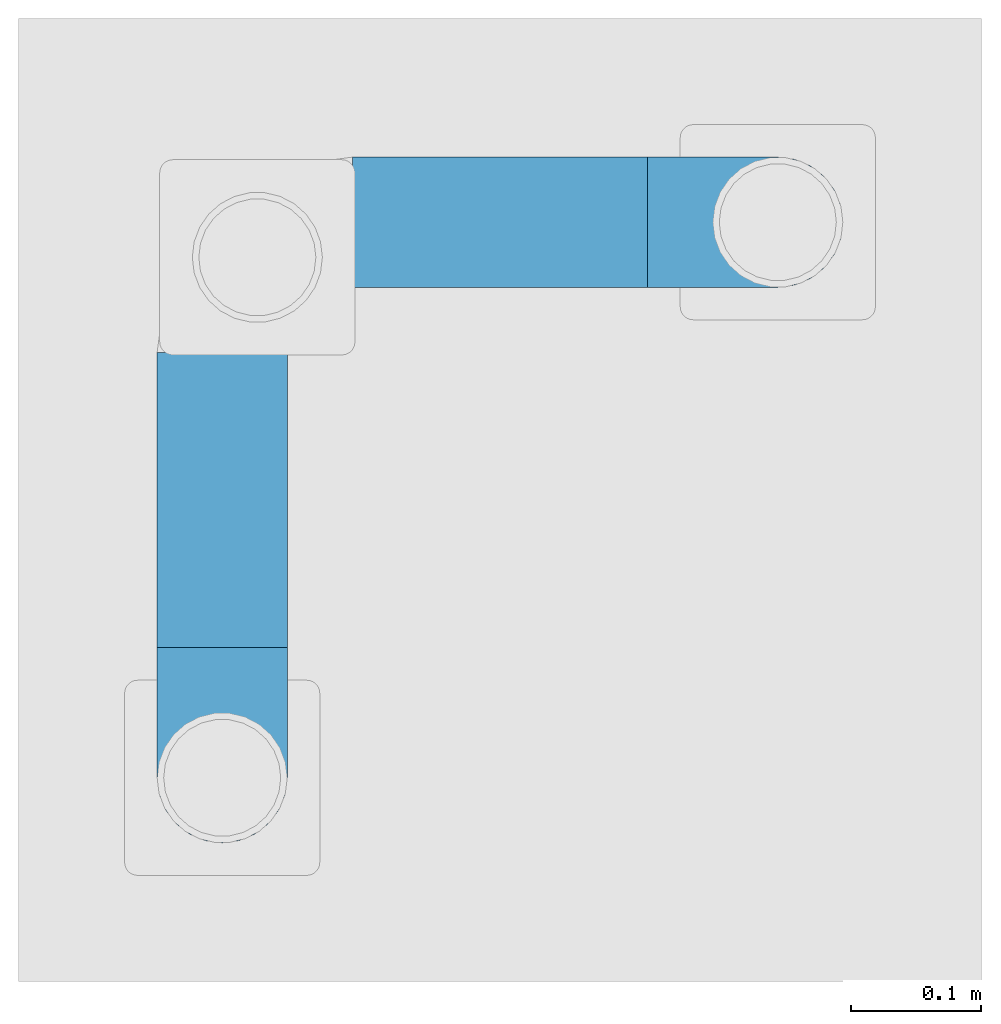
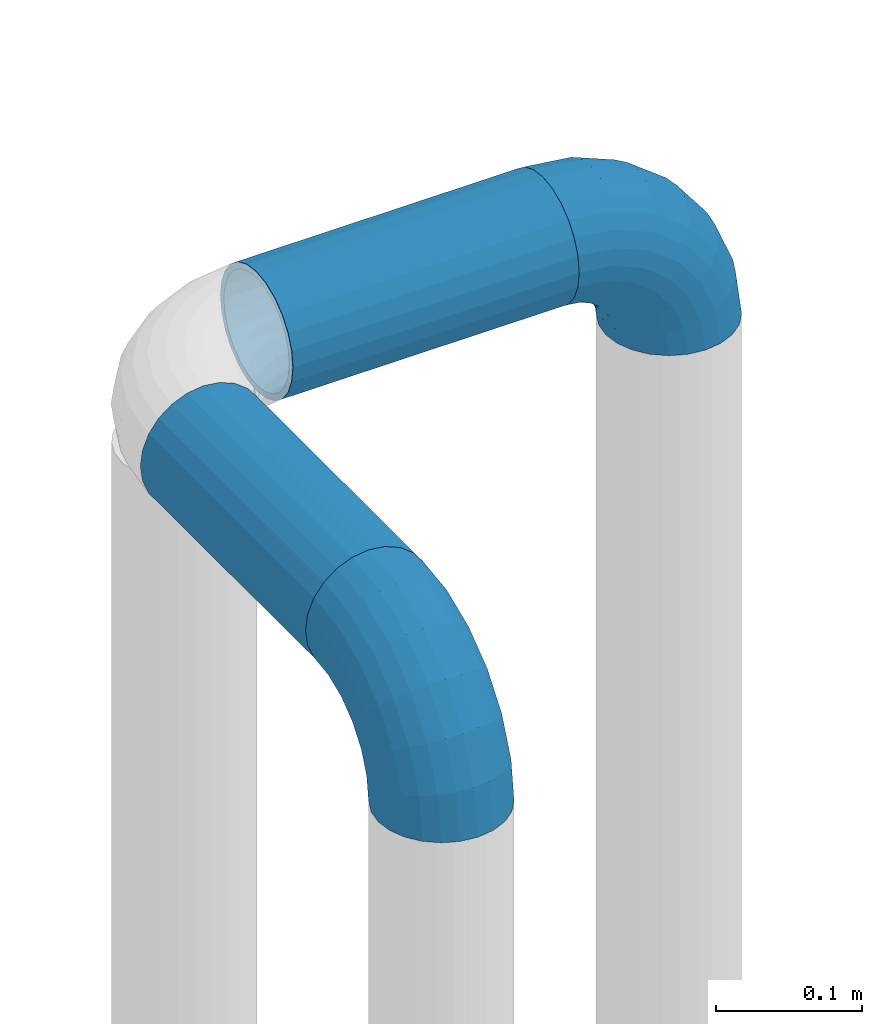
# One storey, part 69 of 418: 4 discrete accessories.
"""IFC2X3 building model written with IfcOpenShell, lengths in millimetres."""

from ifc_helpers import new_model, entity, si_unit, converted_unit, derived_unit, money_unit, direction, frame, origin_with_axes, place, context, subcontext, project, spatial, faceted_brep, source, transform, mapped, type_object, element, save


model = new_model("IFC2X3")

# Units and contexts
model_context = context("Model", 3, precision=0.01, world=origin_with_axes(), true_north=direction((0.0, 1.0)))
body_context = subcontext(model_context, "Body", "Model", "MODEL_VIEW")
ifc_project = project(units=[si_unit("LENGTHUNIT", "METRE", prefix="MILLI"), si_unit("AREAUNIT", "SQUARE_METRE"), si_unit("VOLUMEUNIT", "CUBIC_METRE"), converted_unit("PLANEANGLEUNIT", "DEGREE", entity("IfcPlaneAngleMeasure", 0.0174532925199), si_unit("PLANEANGLEUNIT", "RADIAN"), dimensions=[0, 0, 0, 0, 0, 0, 0]), si_unit("SOLIDANGLEUNIT", "STERADIAN"), money_unit("EUR"), converted_unit("TIMEUNIT", "Year", entity("IfcTimeMeasure", 31556926.0), si_unit("TIMEUNIT", "SECOND"), dimensions=[0, 0, 1, 0, 0, 0, 0]), si_unit("MASSUNIT", "GRAM", prefix="KILO"), si_unit("THERMODYNAMICTEMPERATUREUNIT", "DEGREE_CELSIUS"), si_unit("LUMINOUSINTENSITYUNIT", "LUMEN"), si_unit("ENERGYUNIT", "JOULE", prefix="MEGA"), derived_unit("THERMALCONDUCTANCEUNIT", [(si_unit("POWERUNIT", "WATT"), 1), (si_unit("LENGTHUNIT", "METRE"), -1), (si_unit("THERMODYNAMICTEMPERATUREUNIT", "KELVIN"), -1)]), derived_unit("SPECIFICHEATCAPACITYUNIT", [(si_unit("ENERGYUNIT", "JOULE"), 1), (si_unit("MASSUNIT", "GRAM", prefix="KILO"), -1), (si_unit("THERMODYNAMICTEMPERATUREUNIT", "KELVIN"), -1)]), derived_unit("MASSDENSITYUNIT", [(si_unit("MASSUNIT", "GRAM", prefix="KILO"), 1), (si_unit("VOLUMEUNIT", "CUBIC_METRE"), -1)])], contexts=[model_context])

# Site, building, storey
site_placement = place(None, origin_with_axes())
site = spatial("IfcSite", under=ifc_project, at=site_placement, Name="Paldiski mnt 245/1, Tallinn, Harjumaa", CompositionType="COMPLEX")
building_placement = place(site_placement, origin_with_axes())
building = spatial("IfcBuilding", under=site, at=building_placement, Name="RKAS Hoone üldnimetus (kasutust iseloomustav) -> IFC Project Manager -> SOLIBRI", CompositionType="ELEMENT")
storey_placement = place(building_placement, origin_with_axes())
storey = spatial("IfcBuildingStorey", under=building, at=storey_placement, Name="Esimene korrus", CompositionType="ELEMENT", Elevation=0.0)

# Discrete accessories
discrete_accessory_type_1 = type_object("IfcDiscreteAccessoryType", Name="Elbow Tube 23")
shared_shape_1 = source(origin_with_axes(), body_context, "Body", "Brep", [
    faceted_brep([(-48.2962913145, 12.9409522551, 0.0), (-43.3012701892, 25.0, 0.0), (-35.3553390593, 35.3553390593, 0.0), (-25.0, 43.3012701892, 0.0), (-12.9409522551, 48.2962913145, 0.0), (0.0, 50.0, 0.0), (12.9409522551, 48.2962913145, 0.0), (25.0, 43.3012701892, 0.0), (35.3553390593, 35.3553390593, 0.0), (43.3012701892, 25.0, 0.0), (48.2962913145, 12.9409522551, 0.0), (50.0, 0.0, 0.0), (48.2962913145, -12.9409522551, 0.0), (43.3012701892, -25.0, 0.0), (35.3553390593, -35.3553390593, 0.0), (25.0, -43.3012701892, 0.0), (12.9409522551, -48.2962913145, 0.0), (0.0, -50.0, 0.0), (-12.9409522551, -48.2962913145, 0.0), (-25.0, -43.3012701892, 0.0), (-35.3553390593, -35.3553390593, 0.0), (-43.3012701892, -25.0, 0.0), (-48.2962913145, -12.9409522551, 0.0), (-50.0, 0.0, 0.0), (-39.513173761, -22.5, 0.0), (-32.4253506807, -31.8198051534, 0.0), (-23.1883198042, -38.9711431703, 0.0), (-12.4315695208, -43.466662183, 0.0), (-0.888154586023, -45.0, 0.0), (10.6552603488, -43.466662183, 0.0), (21.4120106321, -38.9711431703, 0.0), (30.6490415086, -31.8198051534, 0.0), (37.736864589, -22.5, 0.0), (42.1924564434, -11.6468570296, 0.0), (43.7121758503, 0.0, 0.0), (42.1924564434, 11.6468570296, 0.0), (37.736864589, 22.5, 0.0), (30.6490415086, 31.8198051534, 0.0), (21.4120106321, 38.9711431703, 0.0), (10.6552603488, 43.466662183, 0.0), (-0.888154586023, 45.0, 0.0), (-12.4315695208, 43.466662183, 0.0), (-23.1883198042, 38.9711431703, 0.0), (-32.4253506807, 31.8198051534, 0.0), (-39.513173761, 22.5, 0.0), (-43.9687656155, 11.6468570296, 0.0), (-45.4884850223, 0.0, 0.0), (-43.9687656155, -11.6468570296, 0.0), (-45.233232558, 25.0, 14.6747111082), (-50.0580524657, 12.9409522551, 13.3819045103), (-37.5580524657, 35.3553390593, 16.7312694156), (-27.5555630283, 43.3012701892, 19.4114283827), (-15.9074173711, 48.2962913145, 22.5325396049), (-3.40741737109, 50.0, 25.8819045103), (9.09258262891, 48.2962913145, 29.2312694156), (20.7407282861, 43.3012701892, 32.3523806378), (30.7432177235, 35.3553390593, 35.0325396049), (38.4183978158, 25.0, 37.0890979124), (43.2432177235, 12.9409522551, 38.3819045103), (44.8888739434, 0.0, 38.8228567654), (43.2432177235, -12.9409522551, 38.3819045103), (38.4183978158, -25.0, 37.0890979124), (30.7432177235, -35.3553390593, 35.0325396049), (20.7407282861, -43.3012701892, 32.3523806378), (9.09258262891, -48.2962913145, 29.2312694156), (-3.40741737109, -50.0, 25.8819045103), (-15.9074173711, -48.2962913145, 22.5325396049), (-27.5555630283, -43.3012701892, 19.4114283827), (-37.5580524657, -35.3553390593, 16.7312694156), (-45.233232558, -25.0, 14.6747111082), (-50.0580524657, -12.9409522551, 13.3819045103), (-51.7037086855, 0.0, 12.9409522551), (-40.2319614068, -22.5, 12.3411072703), (-33.2283655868, -31.8198051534, 13.787233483), (-24.1011018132, -38.9711431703, 15.6718618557), (-13.4721780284, -43.466662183, 17.8665580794), (-2.06593782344, -45.0, 20.2217572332), (9.34030238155, -43.466662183, 22.576956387), (19.9692261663, -38.9711431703, 24.7716526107), (29.0964899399, -31.8198051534, 26.6562809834), (36.1000857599, -22.5, 28.1024071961), (40.5027301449, -11.6468570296, 29.0114801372), (42.004390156, 0.0, 29.3215479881), (40.5027301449, 11.6468570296, 29.0114801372), (36.1000857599, 22.5, 28.1024071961), (29.0964899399, 31.8198051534, 26.6562809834), (19.9692261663, 38.9711431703, 24.7716526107), (9.34030238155, 43.466662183, 22.576956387), (-2.06593782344, 45.0, 20.2217572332), (-13.4721780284, 43.466662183, 17.8665580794), (-24.1011018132, 38.9711431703, 15.6718618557), (-33.2283655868, 31.8198051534, 13.787233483), (-40.2319614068, 22.5, 12.3411072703), (-44.6346057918, 11.6468570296, 11.4320343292), (-46.1362658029, 0.0, 11.1219664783), (-44.6346057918, -11.6468570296, 11.4320343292), (-50.8974596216, 25.0, 28.3493649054), (-55.2232748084, 12.9409522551, 25.8518543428), (-44.0160814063, 35.3553390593, 32.3223304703), (-35.0480947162, 43.3012701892, 37.5), (-24.6046530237, 48.2962913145, 43.5295238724), (-13.3974596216, 50.0, 50.0), (-2.19026621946, 48.2962913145, 56.4704761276), (8.25317547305, 43.3012701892, 62.5), (17.2211621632, 35.3553390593, 67.6776695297), (24.1025403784, 25.0, 71.6506350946), (28.4283555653, 12.9409522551, 74.1481456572), (29.9038105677, 0.0, 75.0), (28.4283555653, -12.9409522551, 74.1481456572), (24.1025403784, -25.0, 71.6506350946), (17.2211621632, -35.3553390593, 67.6776695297), (8.25317547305, -43.3012701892, 62.5), (-2.19026621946, -48.2962913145, 56.4704761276), (-13.3974596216, -50.0, 50.0), (-24.6046530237, -48.2962913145, 43.5295238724), (-35.0480947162, -43.3012701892, 37.5), (-44.0160814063, -35.3553390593, 32.3223304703), (-50.8974596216, -25.0, 28.3493649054), (-55.2232748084, -12.9409522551, 25.8518543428), (-56.6987298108, 0.0, 25.0), (-39.9876976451, -31.8198051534, 32.3583456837), (-46.2823153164, -22.5, 28.9643180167), (-31.7843921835, -38.9711431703, 36.7815286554), (-22.2314406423, -43.466662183, 41.9324343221), (-11.979860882, -45.0, 47.4600369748), (-1.72828112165, -43.466662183, 52.9876396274), (7.82467041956, -38.9711431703, 58.1385452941), (16.0279758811, -31.8198051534, 62.5617282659), (22.3225935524, -22.5, 65.9557559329), (26.2795556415, -11.6468570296, 68.0893309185), (27.6292017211, 0.0, 68.8170536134), (26.2795556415, 11.6468570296, 68.0893309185), (22.3225935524, 22.5, 65.9557559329), (16.0279758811, 31.8198051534, 62.5617282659), (7.82467041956, 38.9711431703, 58.1385452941), (-1.72828112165, 43.466662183, 52.9876396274), (-11.979860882, 45.0, 47.4600369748), (-22.2314406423, 43.466662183, 41.9324343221), (-31.7843921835, 38.9711431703, 36.7815286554), (-39.9876976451, 31.8198051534, 32.3583456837), (-46.2823153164, 22.5, 28.9643180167), (-50.2392774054, 11.6468570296, 26.830743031), (-51.5889234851, 0.0, 26.1030203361), (-50.2392774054, -11.6468570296, 26.830743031), (-59.9079436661, 25.0, 40.0920563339), (-63.439956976, 12.9409522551, 36.560043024), (-54.2893218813, 35.3553390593, 45.7106781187), (-46.966991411, 43.3012701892, 53.033008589), (-38.439956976, 48.2962913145, 61.560043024), (-29.2893218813, 50.0, 70.7106781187), (-20.1386867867, 48.2962913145, 79.8613132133), (-11.6116523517, 43.3012701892, 88.3883476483), (-4.28932188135, 35.3553390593, 95.7106781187), (1.32929990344, 25.0, 101.329299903), (4.86131321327, 12.9409522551, 104.861313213), (6.06601717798, 0.0, 106.066017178), (4.86131321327, -12.9409522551, 104.861313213), (1.32929990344, -25.0, 101.329299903), (-4.28932188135, -35.3553390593, 95.7106781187), (-11.6116523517, -43.3012701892, 88.3883476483), (-20.1386867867, -48.2962913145, 79.8613132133), (-29.2893218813, -50.0, 70.7106781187), (-38.439956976, -48.2962913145, 61.560043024), (-46.966991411, -43.3012701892, 53.033008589), (-54.2893218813, -35.3553390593, 45.7106781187), (-59.9079436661, -25.0, 40.0920563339), (-63.439956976, -12.9409522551, 36.560043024), (-64.6446609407, 0.0, 35.3553390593), (-51.7893218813, -31.8198051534, 48.2106781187), (-56.8460814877, -22.5, 43.1539185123), (-45.199224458, -38.9711431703, 54.800775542), (-37.5248934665, -43.466662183, 62.4751065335), (-29.2893218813, -45.0, 70.7106781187), (-21.0537502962, -43.466662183, 78.9462497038), (-13.3794193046, -38.9711431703, 86.6205806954), (-6.78932188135, -31.8198051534, 93.2106781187), (-1.73256227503, -22.5, 98.267437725), (1.4462497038, -11.6468570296, 101.446249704), (2.53048327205, 0.0, 102.530483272), (1.4462497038, 11.6468570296, 101.446249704), (-1.73256227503, 22.5, 98.267437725), (-6.78932188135, 31.8198051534, 93.2106781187), (-13.3794193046, 38.9711431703, 86.6205806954), (-21.0537502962, 43.466662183, 78.9462497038), (-29.2893218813, 45.0, 70.7106781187), (-37.5248934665, 43.466662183, 62.4751065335), (-45.199224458, 38.9711431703, 54.800775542), (-51.7893218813, 31.8198051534, 48.2106781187), (-56.8460814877, 22.5, 43.1539185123), (-60.0248934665, 11.6468570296, 39.9751065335), (-61.1091270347, 0.0, 38.8908729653), (-60.0248934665, -11.6468570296, 39.9751065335), (-71.6506350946, 25.0, 49.1025403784), (-74.1481456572, 12.9409522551, 44.7767251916), (-67.6776695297, 35.3553390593, 55.9839185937), (-62.5, 43.3012701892, 64.9519052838), (-56.4704761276, 48.2962913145, 75.3953469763), (-50.0, 50.0, 86.6025403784), (-43.5295238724, 48.2962913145, 97.8097337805), (-37.5, 43.3012701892, 108.253175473), (-32.3223304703, 35.3553390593, 117.221162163), (-28.3493649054, 25.0, 124.102540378), (-25.8518543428, 12.9409522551, 128.428355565), (-25.0, 0.0, 129.903810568), (-25.8518543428, -12.9409522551, 128.428355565), (-28.3493649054, -25.0, 124.102540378), (-32.3223304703, -35.3553390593, 117.221162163), (-37.5, -43.3012701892, 108.253175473), (-43.5295238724, -48.2962913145, 97.8097337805), (-50.0, -50.0, 86.6025403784), (-56.4704761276, -48.2962913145, 75.3953469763), (-62.5, -43.3012701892, 64.9519052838), (-67.6776695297, -35.3553390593, 55.9839185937), (-71.6506350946, -25.0, 49.1025403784), (-74.1481456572, -12.9409522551, 44.7767251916), (-75.0, 0.0, 43.3012701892), (-67.6416543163, -31.8198051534, 60.0123023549), (-71.0356819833, -22.5, 53.7176846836), (-63.2184713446, -38.9711431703, 68.2156078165), (-58.0675656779, -43.466662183, 77.7685593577), (-52.5399630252, -45.0, 88.020139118), (-47.0123603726, -43.466662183, 98.2717188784), (-41.8614547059, -38.9711431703, 107.82467042), (-37.4382717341, -31.8198051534, 116.027975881), (-34.0442440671, -22.5, 122.322593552), (-31.9106690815, -11.6468570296, 126.279555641), (-31.1829463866, 0.0, 127.629201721), (-31.9106690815, 11.6468570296, 126.279555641), (-34.0442440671, 22.5, 122.322593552), (-37.4382717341, 31.8198051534, 116.027975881), (-41.8614547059, 38.9711431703, 107.82467042), (-47.0123603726, 43.466662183, 98.2717188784), (-52.5399630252, 45.0, 88.020139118), (-58.0675656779, 43.466662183, 77.7685593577), (-63.2184713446, 38.9711431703, 68.2156078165), (-67.6416543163, 31.8198051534, 60.0123023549), (-71.0356819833, 22.5, 53.7176846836), (-73.169256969, 11.6468570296, 49.7607225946), (-73.8969796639, 0.0, 48.4110765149), (-73.169256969, -11.6468570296, 49.7607225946), (-85.3252888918, 25.0, 54.766767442), (-86.6180954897, 12.9409522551, 49.9419475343), (-83.2687305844, 35.3553390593, 62.4419475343), (-80.5885716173, 43.3012701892, 72.4444369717), (-77.4674603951, 48.2962913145, 84.0925826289), (-74.1180954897, 50.0, 96.5925826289), (-70.7687305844, 48.2962913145, 109.092582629), (-67.6476193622, 43.3012701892, 120.740728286), (-64.9674603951, 35.3553390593, 130.743217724), (-62.9109020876, 25.0, 138.418397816), (-61.6180954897, 12.9409522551, 143.243217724), (-61.1771432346, 0.0, 144.888873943), (-61.6180954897, -12.9409522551, 143.243217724), (-62.9109020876, -25.0, 138.418397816), (-64.9674603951, -35.3553390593, 130.743217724), (-67.6476193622, -43.3012701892, 120.740728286), (-70.7687305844, -48.2962913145, 109.092582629), (-74.1180954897, -50.0, 96.5925826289), (-77.4674603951, -48.2962913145, 84.0925826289), (-80.5885716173, -43.3012701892, 72.4444369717), (-83.2687305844, -35.3553390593, 62.4419475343), (-85.3252888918, -25.0, 54.766767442), (-86.6180954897, -12.9409522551, 49.9419475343), (-87.0590477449, 0.0, 48.2962913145), (-86.212766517, -31.8198051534, 66.7716344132), (-87.6588927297, -22.5, 59.7680385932), (-84.3281381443, -38.9711431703, 75.8988981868), (-82.1334419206, -43.466662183, 86.5278219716), (-79.7782427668, -45.0, 97.9340621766), (-77.423043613, -43.466662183, 109.340302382), (-75.2283473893, -38.9711431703, 119.969226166), (-73.3437190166, -31.8198051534, 129.09648994), (-71.8975928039, -22.5, 136.10008576), (-70.9885198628, -11.6468570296, 140.502730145), (-70.6784520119, 0.0, 142.004390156), (-70.9885198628, 11.6468570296, 140.502730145), (-71.8975928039, 22.5, 136.10008576), (-73.3437190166, 31.8198051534, 129.09648994), (-75.2283473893, 38.9711431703, 119.969226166), (-77.423043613, 43.466662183, 109.340302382), (-79.7782427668, 45.0, 97.9340621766), (-82.1334419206, 43.466662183, 86.5278219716), (-84.3281381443, 38.9711431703, 75.8988981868), (-86.212766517, 31.8198051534, 66.7716344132), (-87.6588927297, 22.5, 59.7680385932), (-88.5679656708, 11.6468570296, 55.3653942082), (-88.8780335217, 0.0, 53.8637341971), (-88.5679656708, -11.6468570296, 55.3653942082), (-100.0, 25.0, 56.6987298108), (-100.0, 12.9409522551, 51.7037086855), (-100.0, 35.3553390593, 64.6446609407), (-100.0, 43.3012701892, 75.0), (-100.0, 48.2962913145, 87.0590477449), (-100.0, 50.0, 100.0), (-100.0, 48.2962913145, 112.940952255), (-100.0, 43.3012701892, 125.0), (-100.0, 35.3553390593, 135.355339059), (-100.0, 25.0, 143.301270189), (-100.0, 12.9409522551, 148.296291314), (-100.0, 0.0, 150.0), (-100.0, -12.9409522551, 148.296291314), (-100.0, -25.0, 143.301270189), (-100.0, -35.3553390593, 135.355339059), (-100.0, -43.3012701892, 125.0), (-100.0, -48.2962913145, 112.940952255), (-100.0, -50.0, 100.0), (-100.0, -48.2962913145, 87.0590477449), (-100.0, -43.3012701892, 75.0), (-100.0, -35.3553390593, 64.6446609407), (-100.0, -25.0, 56.6987298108), (-100.0, -12.9409522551, 51.7037086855), (-100.0, 0.0, 50.0), (-100.0, -31.8198051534, 67.5746493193), (-100.0, -22.5, 60.486826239), (-100.0, -38.9711431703, 76.8116801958), (-100.0, -43.466662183, 87.5684304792), (-100.0, -45.0, 99.111845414), (-100.0, -43.466662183, 110.655260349), (-100.0, -38.9711431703, 121.412010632), (-100.0, -31.8198051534, 130.649041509), (-100.0, -22.5, 137.736864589), (-100.0, -11.6468570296, 142.192456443), (-100.0, 0.0, 143.71217585), (-100.0, 11.6468570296, 142.192456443), (-100.0, 22.5, 137.736864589), (-100.0, 31.8198051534, 130.649041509), (-100.0, 38.9711431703, 121.412010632), (-100.0, 43.466662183, 110.655260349), (-100.0, 45.0, 99.111845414), (-100.0, 43.466662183, 87.5684304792), (-100.0, 38.9711431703, 76.8116801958), (-100.0, 31.8198051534, 67.5746493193), (-100.0, 22.5, 60.486826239), (-100.0, 11.6468570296, 56.0312343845), (-100.0, 0.0, 54.5115149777), (-100.0, -11.6468570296, 56.0312343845)], [[[0, 1, 2, 3, 4, 5, 6, 7, 8, 9, 10, 11, 12, 13, 14, 15, 16, 17, 18, 19, 20, 21, 22, 23], [24, 25, 26, 27, 28, 29, 30, 31, 32, 33, 34, 35, 36, 37, 38, 39, 40, 41, 42, 43, 44, 45, 46, 47]], [[48, 1, 0, 49]], [[50, 2, 1, 48]], [[51, 3, 2, 50]], [[52, 4, 3, 51]], [[53, 5, 4, 52]], [[54, 6, 5, 53]], [[55, 7, 6, 54]], [[56, 8, 7, 55]], [[57, 9, 8, 56]], [[58, 10, 9, 57]], [[59, 11, 10, 58]], [[60, 12, 11, 59]], [[61, 13, 12, 60]], [[62, 14, 13, 61]], [[63, 15, 14, 62]], [[64, 16, 15, 63]], [[65, 17, 16, 64]], [[66, 18, 17, 65]], [[67, 19, 18, 66]], [[68, 20, 19, 67]], [[69, 21, 20, 68]], [[70, 22, 21, 69]], [[71, 23, 22, 70]], [[49, 0, 23, 71]], [[24, 72, 73, 25]], [[25, 73, 74, 26]], [[26, 74, 75, 27]], [[27, 75, 76, 28]], [[28, 76, 77, 29]], [[29, 77, 78, 30]], [[30, 78, 79, 31]], [[31, 79, 80, 32]], [[32, 80, 81, 33]], [[33, 81, 82, 34]], [[34, 82, 83, 35]], [[35, 83, 84, 36]], [[36, 84, 85, 37]], [[37, 85, 86, 38]], [[38, 86, 87, 39]], [[39, 87, 88, 40]], [[40, 88, 89, 41]], [[41, 89, 90, 42]], [[42, 90, 91, 43]], [[43, 91, 92, 44]], [[44, 92, 93, 45]], [[45, 93, 94, 46]], [[46, 94, 95, 47]], [[47, 95, 72, 24]], [[96, 48, 49, 97]], [[98, 50, 48, 96]], [[99, 51, 50, 98]], [[100, 52, 51, 99]], [[101, 53, 52, 100]], [[102, 54, 53, 101]], [[103, 55, 54, 102]], [[104, 56, 55, 103]], [[105, 57, 56, 104]], [[106, 58, 57, 105]], [[107, 59, 58, 106]], [[108, 60, 59, 107]], [[109, 61, 60, 108]], [[110, 62, 61, 109]], [[111, 63, 62, 110]], [[112, 64, 63, 111]], [[113, 65, 64, 112]], [[114, 66, 65, 113]], [[115, 67, 66, 114]], [[116, 68, 67, 115]], [[117, 69, 68, 116]], [[118, 70, 69, 117]], [[119, 71, 70, 118]], [[97, 49, 71, 119]], [[120, 73, 72, 121]], [[122, 74, 73, 120]], [[123, 75, 74, 122]], [[124, 76, 75, 123]], [[125, 77, 76, 124]], [[126, 78, 77, 125]], [[127, 79, 78, 126]], [[128, 80, 79, 127]], [[129, 81, 80, 128]], [[130, 82, 81, 129]], [[131, 83, 82, 130]], [[132, 84, 83, 131]], [[133, 85, 84, 132]], [[134, 86, 85, 133]], [[135, 87, 86, 134]], [[136, 88, 87, 135]], [[137, 89, 88, 136]], [[138, 90, 89, 137]], [[139, 91, 90, 138]], [[140, 92, 91, 139]], [[141, 93, 92, 140]], [[142, 94, 93, 141]], [[143, 95, 94, 142]], [[121, 72, 95, 143]], [[144, 96, 97, 145]], [[146, 98, 96, 144]], [[147, 99, 98, 146]], [[148, 100, 99, 147]], [[149, 101, 100, 148]], [[150, 102, 101, 149]], [[151, 103, 102, 150]], [[152, 104, 103, 151]], [[153, 105, 104, 152]], [[154, 106, 105, 153]], [[155, 107, 106, 154]], [[156, 108, 107, 155]], [[157, 109, 108, 156]], [[158, 110, 109, 157]], [[159, 111, 110, 158]], [[160, 112, 111, 159]], [[161, 113, 112, 160]], [[162, 114, 113, 161]], [[163, 115, 114, 162]], [[164, 116, 115, 163]], [[165, 117, 116, 164]], [[166, 118, 117, 165]], [[167, 119, 118, 166]], [[145, 97, 119, 167]], [[168, 120, 121, 169]], [[170, 122, 120, 168]], [[171, 123, 122, 170]], [[172, 124, 123, 171]], [[173, 125, 124, 172]], [[174, 126, 125, 173]], [[175, 127, 126, 174]], [[176, 128, 127, 175]], [[177, 129, 128, 176]], [[178, 130, 129, 177]], [[179, 131, 130, 178]], [[180, 132, 131, 179]], [[181, 133, 132, 180]], [[182, 134, 133, 181]], [[183, 135, 134, 182]], [[184, 136, 135, 183]], [[185, 137, 136, 184]], [[186, 138, 137, 185]], [[187, 139, 138, 186]], [[188, 140, 139, 187]], [[189, 141, 140, 188]], [[190, 142, 141, 189]], [[191, 143, 142, 190]], [[169, 121, 143, 191]], [[192, 144, 145, 193]], [[194, 146, 144, 192]], [[195, 147, 146, 194]], [[196, 148, 147, 195]], [[197, 149, 148, 196]], [[198, 150, 149, 197]], [[199, 151, 150, 198]], [[200, 152, 151, 199]], [[201, 153, 152, 200]], [[202, 154, 153, 201]], [[203, 155, 154, 202]], [[204, 156, 155, 203]], [[205, 157, 156, 204]], [[206, 158, 157, 205]], [[207, 159, 158, 206]], [[208, 160, 159, 207]], [[209, 161, 160, 208]], [[210, 162, 161, 209]], [[211, 163, 162, 210]], [[212, 164, 163, 211]], [[213, 165, 164, 212]], [[214, 166, 165, 213]], [[215, 167, 166, 214]], [[193, 145, 167, 215]], [[216, 168, 169, 217]], [[218, 170, 168, 216]], [[219, 171, 170, 218]], [[220, 172, 171, 219]], [[221, 173, 172, 220]], [[222, 174, 173, 221]], [[223, 175, 174, 222]], [[224, 176, 175, 223]], [[225, 177, 176, 224]], [[226, 178, 177, 225]], [[227, 179, 178, 226]], [[228, 180, 179, 227]], [[229, 181, 180, 228]], [[230, 182, 181, 229]], [[231, 183, 182, 230]], [[232, 184, 183, 231]], [[233, 185, 184, 232]], [[234, 186, 185, 233]], [[235, 187, 186, 234]], [[236, 188, 187, 235]], [[237, 189, 188, 236]], [[238, 190, 189, 237]], [[239, 191, 190, 238]], [[217, 169, 191, 239]], [[240, 192, 193, 241]], [[242, 194, 192, 240]], [[243, 195, 194, 242]], [[244, 196, 195, 243]], [[245, 197, 196, 244]], [[246, 198, 197, 245]], [[247, 199, 198, 246]], [[248, 200, 199, 247]], [[249, 201, 200, 248]], [[250, 202, 201, 249]], [[251, 203, 202, 250]], [[252, 204, 203, 251]], [[253, 205, 204, 252]], [[254, 206, 205, 253]], [[255, 207, 206, 254]], [[256, 208, 207, 255]], [[257, 209, 208, 256]], [[258, 210, 209, 257]], [[259, 211, 210, 258]], [[260, 212, 211, 259]], [[261, 213, 212, 260]], [[262, 214, 213, 261]], [[263, 215, 214, 262]], [[241, 193, 215, 263]], [[264, 216, 217, 265]], [[266, 218, 216, 264]], [[267, 219, 218, 266]], [[268, 220, 219, 267]], [[269, 221, 220, 268]], [[270, 222, 221, 269]], [[271, 223, 222, 270]], [[272, 224, 223, 271]], [[273, 225, 224, 272]], [[274, 226, 225, 273]], [[275, 227, 226, 274]], [[276, 228, 227, 275]], [[277, 229, 228, 276]], [[278, 230, 229, 277]], [[279, 231, 230, 278]], [[280, 232, 231, 279]], [[281, 233, 232, 280]], [[282, 234, 233, 281]], [[283, 235, 234, 282]], [[284, 236, 235, 283]], [[285, 237, 236, 284]], [[286, 238, 237, 285]], [[287, 239, 238, 286]], [[265, 217, 239, 287]], [[288, 240, 241, 289]], [[290, 242, 240, 288]], [[291, 243, 242, 290]], [[292, 244, 243, 291]], [[293, 245, 244, 292]], [[294, 246, 245, 293]], [[295, 247, 246, 294]], [[296, 248, 247, 295]], [[297, 249, 248, 296]], [[298, 250, 249, 297]], [[299, 251, 250, 298]], [[300, 252, 251, 299]], [[301, 253, 252, 300]], [[302, 254, 253, 301]], [[303, 255, 254, 302]], [[304, 256, 255, 303]], [[305, 257, 256, 304]], [[306, 258, 257, 305]], [[307, 259, 258, 306]], [[308, 260, 259, 307]], [[309, 261, 260, 308]], [[310, 262, 261, 309]], [[311, 263, 262, 310]], [[289, 241, 263, 311]], [[312, 264, 265, 313]], [[314, 266, 264, 312]], [[315, 267, 266, 314]], [[316, 268, 267, 315]], [[317, 269, 268, 316]], [[318, 270, 269, 317]], [[319, 271, 270, 318]], [[320, 272, 271, 319]], [[321, 273, 272, 320]], [[322, 274, 273, 321]], [[323, 275, 274, 322]], [[324, 276, 275, 323]], [[325, 277, 276, 324]], [[326, 278, 277, 325]], [[327, 279, 278, 326]], [[328, 280, 279, 327]], [[329, 281, 280, 328]], [[330, 282, 281, 329]], [[331, 283, 282, 330]], [[332, 284, 283, 331]], [[333, 285, 284, 332]], [[334, 286, 285, 333]], [[335, 287, 286, 334]], [[313, 265, 287, 335]], [[310, 309, 308, 307, 306, 305, 304, 303, 302, 301, 300, 299, 298, 297, 296, 295, 294, 293, 292, 291, 290, 288, 289, 311], [326, 325, 324, 323, 322, 321, 320, 319, 318, 317, 316, 315, 314, 312, 313, 335, 334, 333, 332, 331, 330, 329, 328, 327]]]),
])
for number, where, z_axis, x_axis in (
    (1, (-64146.4993479, 36573.4999944, 100.0), (0.0, 0.0, 1.0), (1.0, 0.0, 0.0)),
    (2, (-64573.5006649, 36146.4999905, 100.0), (0.0, 0.0, 1.0), (0.0, -1.0, 0.0)),
):
    element("IfcDiscreteAccessory", number, at=place(storey_placement, frame(where, z_axis=z_axis, x_axis=x_axis)), inside=storey, type_object=discrete_accessory_type_1, Name="Päikesepaneel", context=body_context, shape_type="MappedRepresentation", body=[
        mapped(shared_shape_1, transform((0.0, 0.0, 0.0))),
    ])
discrete_accessory_type_2 = type_object("IfcDiscreteAccessoryType", Name="Tube 23")
shared_shape_2 = source(origin_with_axes(), body_context, "Body", "Brep", [
    faceted_brep([(0.0, 0.0, -50.0), (0.0, 12.9409522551, -48.2962913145), (0.0, 25.0, -43.3012701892), (0.0, 35.3553390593, -35.3553390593), (0.0, 43.3012701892, -25.0), (0.0, 48.2962913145, -12.9409522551), (0.0, 50.0, 0.0), (0.0, 48.2962913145, 12.9409522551), (0.0, 43.3012701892, 25.0), (0.0, 35.3553390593, 35.3553390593), (0.0, 25.0, 43.3012701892), (0.0, 12.9409522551, 48.2962913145), (0.0, 0.0, 50.0), (0.0, -12.9409522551, 48.2962913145), (0.0, -25.0, 43.3012701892), (0.0, -35.3553390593, 35.3553390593), (0.0, -43.3012701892, 25.0), (0.0, -48.2962913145, 12.9409522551), (0.0, -50.0, 0.0), (0.0, -48.2962913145, -12.9409522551), (0.0, -43.3012701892, -25.0), (0.0, -35.3553390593, -35.3553390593), (0.0, -25.0, -43.3012701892), (0.0, -12.9409522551, -48.2962913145), (0.0, -22.5, -38.9711431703), (0.0, -31.8198051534, -31.8198051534), (0.0, -38.9711431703, -22.5), (0.0, -43.466662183, -11.6468570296), (0.0, -45.0, 0.0), (0.0, -43.466662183, 11.6468570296), (0.0, -38.9711431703, 22.5), (0.0, -31.8198051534, 31.8198051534), (0.0, -22.5, 38.9711431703), (0.0, -11.6468570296, 43.466662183), (0.0, 0.0, 45.0), (0.0, 11.6468570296, 43.466662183), (0.0, 22.5, 38.9711431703), (0.0, 31.8198051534, 31.8198051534), (0.0, 38.9711431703, 22.5), (0.0, 43.466662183, 11.6468570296), (0.0, 45.0, 0.0), (0.0, 43.466662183, -11.6468570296), (0.0, 38.9711431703, -22.5), (0.0, 31.8198051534, -31.8198051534), (0.0, 22.5, -38.9711431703), (0.0, 11.6468570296, -43.466662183), (0.0, 0.0, -45.0), (0.0, -11.6468570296, -43.466662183), (-227.001317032, 0.0, -50.0), (-227.001317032, 12.9409522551, -48.2962913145), (-227.001317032, 25.0, -43.3012701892), (-227.001317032, 35.3553390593, -35.3553390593), (-227.001317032, 43.3012701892, -25.0), (-227.001317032, 48.2962913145, -12.9409522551), (-227.001317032, 50.0, 0.0), (-227.001317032, 48.2962913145, 12.9409522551), (-227.001317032, 43.3012701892, 25.0), (-227.001317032, 35.3553390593, 35.3553390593), (-227.001317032, 25.0, 43.3012701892), (-227.001317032, 12.9409522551, 48.2962913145), (-227.001317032, 0.0, 50.0), (-227.001317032, -12.9409522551, 48.2962913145), (-227.001317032, -25.0, 43.3012701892), (-227.001317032, -35.3553390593, 35.3553390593), (-227.001317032, -43.3012701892, 25.0), (-227.001317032, -48.2962913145, 12.9409522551), (-227.001317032, -50.0, 0.0), (-227.001317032, -48.2962913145, -12.9409522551), (-227.001317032, -43.3012701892, -25.0), (-227.001317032, -35.3553390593, -35.3553390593), (-227.001317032, -25.0, -43.3012701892), (-227.001317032, -12.9409522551, -48.2962913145), (-227.001317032, -31.8198051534, -31.8198051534), (-227.001317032, -22.5, -38.9711431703), (-227.001317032, -38.9711431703, -22.5), (-227.001317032, -43.466662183, -11.6468570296), (-227.001317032, -45.0, 0.0), (-227.001317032, -43.466662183, 11.6468570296), (-227.001317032, -38.9711431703, 22.5), (-227.001317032, -31.8198051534, 31.8198051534), (-227.001317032, -22.5, 38.9711431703), (-227.001317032, -11.6468570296, 43.466662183), (-227.001317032, 0.0, 45.0), (-227.001317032, 11.6468570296, 43.466662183), (-227.001317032, 22.5, 38.9711431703), (-227.001317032, 31.8198051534, 31.8198051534), (-227.001317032, 38.9711431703, 22.5), (-227.001317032, 43.466662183, 11.6468570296), (-227.001317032, 45.0, 0.0), (-227.001317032, 43.466662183, -11.6468570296), (-227.001317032, 38.9711431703, -22.5), (-227.001317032, 31.8198051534, -31.8198051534), (-227.001317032, 22.5, -38.9711431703), (-227.001317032, 11.6468570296, -43.466662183), (-227.001317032, 0.0, -45.0), (-227.001317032, -11.6468570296, -43.466662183)], [[[0, 1, 2, 3, 4, 5, 6, 7, 8, 9, 10, 11, 12, 13, 14, 15, 16, 17, 18, 19, 20, 21, 22, 23], [24, 25, 26, 27, 28, 29, 30, 31, 32, 33, 34, 35, 36, 37, 38, 39, 40, 41, 42, 43, 44, 45, 46, 47]], [[48, 49, 1, 0]], [[49, 50, 2, 1]], [[50, 51, 3, 2]], [[51, 52, 4, 3]], [[52, 53, 5, 4]], [[53, 54, 6, 5]], [[54, 55, 7, 6]], [[55, 56, 8, 7]], [[56, 57, 9, 8]], [[57, 58, 10, 9]], [[58, 59, 11, 10]], [[59, 60, 12, 11]], [[60, 61, 13, 12]], [[61, 62, 14, 13]], [[62, 63, 15, 14]], [[63, 64, 16, 15]], [[64, 65, 17, 16]], [[65, 66, 18, 17]], [[66, 67, 19, 18]], [[67, 68, 20, 19]], [[68, 69, 21, 20]], [[69, 70, 22, 21]], [[70, 71, 23, 22]], [[71, 48, 0, 23]], [[72, 25, 24, 73]], [[74, 26, 25, 72]], [[75, 27, 26, 74]], [[76, 28, 27, 75]], [[77, 29, 28, 76]], [[78, 30, 29, 77]], [[79, 31, 30, 78]], [[80, 32, 31, 79]], [[81, 33, 32, 80]], [[82, 34, 33, 81]], [[83, 35, 34, 82]], [[84, 36, 35, 83]], [[85, 37, 36, 84]], [[86, 38, 37, 85]], [[87, 39, 38, 86]], [[88, 40, 39, 87]], [[89, 41, 40, 88]], [[90, 42, 41, 89]], [[91, 43, 42, 90]], [[92, 44, 43, 91]], [[93, 45, 44, 92]], [[94, 46, 45, 93]], [[95, 47, 46, 94]], [[73, 24, 47, 95]], [[70, 69, 68, 67, 66, 65, 64, 63, 62, 61, 60, 59, 58, 57, 56, 55, 54, 53, 52, 51, 50, 49, 48, 71], [92, 91, 90, 89, 88, 87, 86, 85, 84, 83, 82, 81, 80, 79, 78, 77, 76, 75, 74, 72, 73, 95, 94, 93]]]),
])
for number, where, z_axis, x_axis in (
    (3, (-64473.5006649, 36573.4999944, 200.0), (0.0, 0.0, 1.0), (-1.0, 0.0, 0.0)),
    (4, (-64573.5006649, 36246.4986773, 200.0), (0.0, 0.0, 1.0), (0.0, -1.0, 0.0)),
):
    element("IfcDiscreteAccessory", number, at=place(storey_placement, frame(where, z_axis=z_axis, x_axis=x_axis)), inside=storey, type_object=discrete_accessory_type_2, Name="Päikesepaneel", context=body_context, shape_type="MappedRepresentation", body=[
        mapped(shared_shape_2, transform((0.0, 0.0, 0.0))),
    ])

save(model, "model.ifc")
